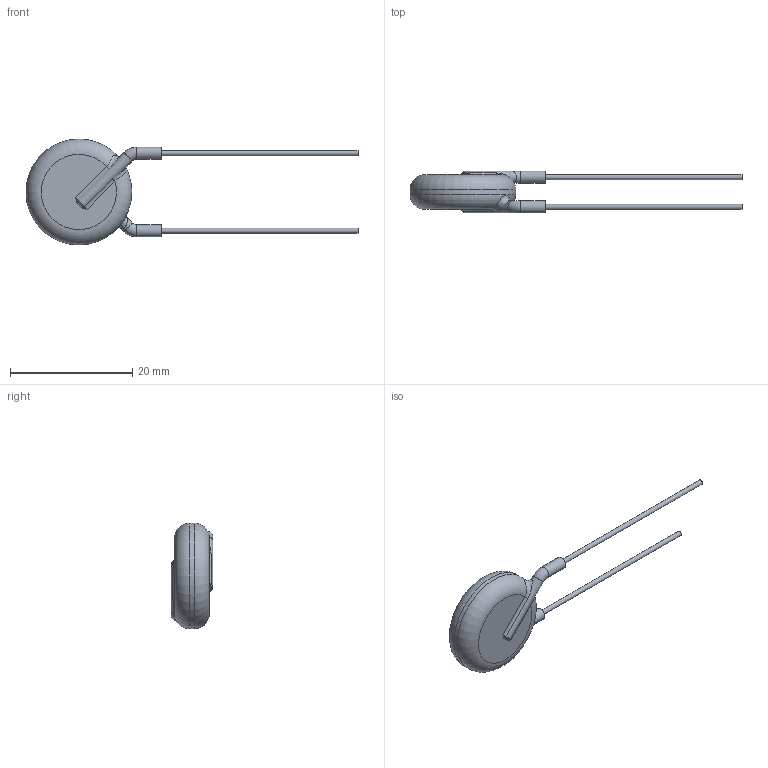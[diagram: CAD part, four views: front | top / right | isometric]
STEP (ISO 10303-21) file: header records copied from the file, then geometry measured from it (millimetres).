
FILE_DESCRIPTION((''),'2;1');
FILE_NAME('I:\Marketing\M6t1\3D-Models\Zchng-Werk-3\Upload for homepage\Ceramite\T3M-10kV\615R100GATT50\615R100GATT50.stp','2015-08-28T09:43:56',(''),(''),'Autodesk Inventor 2013','Autodesk Inventor 2013','');
FILE_SCHEMA(('AUTOMOTIVE_DESIGN { 1 0 10303 214 1 1 1 1 }'));
Length unit declared in the file: centimetre
Products named in the file (1): 615R100GATT50
Bounding box: 54.3 x 6.86 x 17.3 mm (x, y, z)
Volume: 1301.6 mm3; surface area: 922.2 mm2
Topology: 1 solids, 1 shells, 41 faces, 92 edges, 51 vertices
Faces by surface type: cylinder 13, bspline 10, torus 10, plane 8
Full cylindrical faces by diameter (mm): 0.81 x2, 1.96 x4, 17.3 x1
Entity records: 1499 total; most frequent: CARTESIAN_POINT 666, DIRECTION 152, ORIENTED_EDGE 140, AXIS2_PLACEMENT_3D 70, EDGE_CURVE 70, EDGE_LOOP 54, VERTEX_POINT 44, STYLED_ITEM 42
